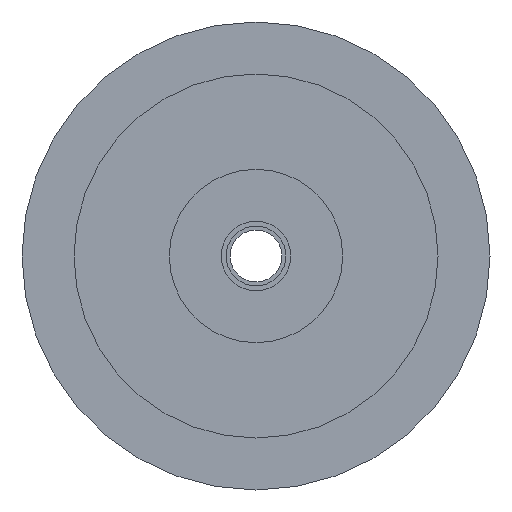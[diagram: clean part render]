
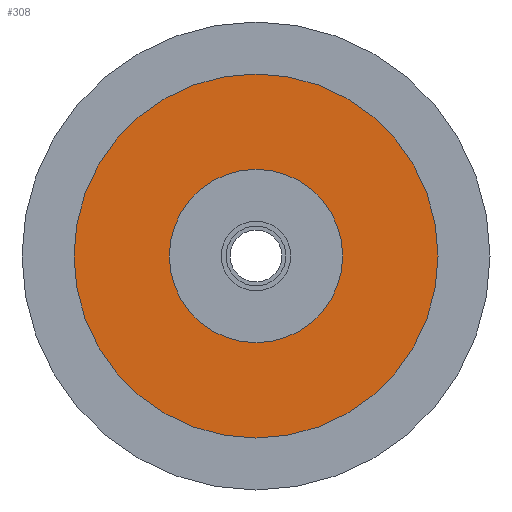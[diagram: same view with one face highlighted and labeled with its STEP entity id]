
A CAD part, front view. The second image highlights one B-rep face of the part: STEP entity #308.
In plain terms, the highlighted planar face has unit normal (0, -1, 0).
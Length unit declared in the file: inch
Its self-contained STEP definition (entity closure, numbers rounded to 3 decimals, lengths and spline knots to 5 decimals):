
#62=FACE_BOUND($,#123,.T.);
#63=FACE_BOUND($,#124,.T.);
#123=EDGE_LOOP($,(#253));
#124=EDGE_LOOP($,(#254));
#165=CIRCLE($,#353,1.3125);
#166=CIRCLE($,#355,0.625);
#191=VERTEX_POINT($,#546);
#192=VERTEX_POINT($,#549);
#217=EDGE_CURVE($,#191,#191,#165,.T.);
#218=EDGE_CURVE($,#192,#192,#166,.T.);
#253=ORIENTED_EDGE($,*,*,#218,.F.);
#254=ORIENTED_EDGE($,*,*,#217,.T.);
#290=PLANE($,#354);
#308=ADVANCED_FACE($,(#62,#63),#290,.T.);
#353=AXIS2_PLACEMENT_3D($,#547,#435,#436);
#354=AXIS2_PLACEMENT_3D($,#548,#437,#438);
#355=AXIS2_PLACEMENT_3D($,#550,#439,#440);
#435=DIRECTION('center_axis',(0.,-1.,0.));
#436=DIRECTION('ref_axis',(1.,0.,0.));
#437=DIRECTION('center_axis',(0.,-1.,0.));
#438=DIRECTION('ref_axis',(0.,0.,-1.));
#439=DIRECTION('center_axis',(0.,-1.,0.));
#440=DIRECTION('ref_axis',(1.,0.,0.));
#546=CARTESIAN_POINT('',(1.3125,-0.31392,0.));
#547=CARTESIAN_POINT('Origin',(0.,-0.31392,0.));
#548=CARTESIAN_POINT('Origin',(0.96875,-0.31392,0.));
#549=CARTESIAN_POINT('',(0.625,-0.31392,0.));
#550=CARTESIAN_POINT('Origin',(0.,-0.31392,0.));
